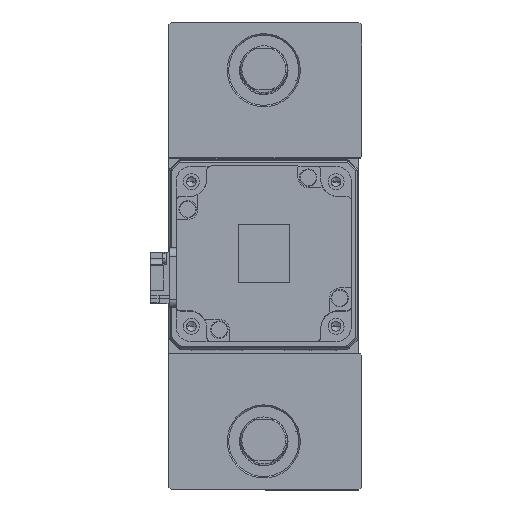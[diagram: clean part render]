
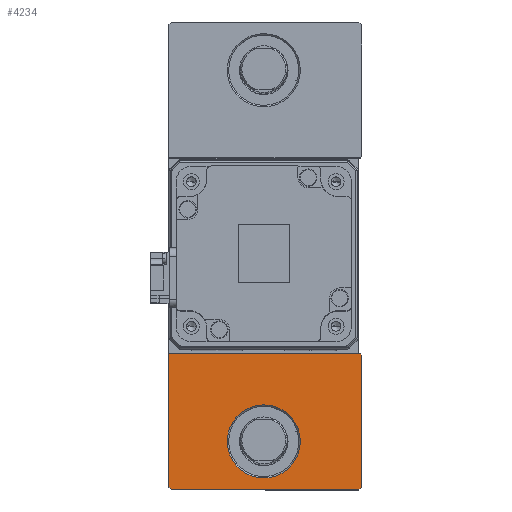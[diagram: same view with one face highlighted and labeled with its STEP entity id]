
A CAD part, top view. The second image highlights one B-rep face of the part: STEP entity #4234.
In plain terms, the highlighted planar face has unit normal (0, 0, 1).
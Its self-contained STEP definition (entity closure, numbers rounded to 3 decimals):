
#342 = DIRECTION ( 'NONE',  ( 0.707, 0.707, 0. ) ) ;
#582 = EDGE_CURVE ( 'NONE', #10966, #22020, #37414, .T. ) ;
#726 = DIRECTION ( 'NONE',  ( 0., 1., 0. ) ) ;
#1306 = EDGE_CURVE ( 'NONE', #27824, #7172, #36489, .T. ) ;
#1331 = ORIENTED_EDGE ( 'NONE', *, *, #30090, .T. ) ;
#1456 = ORIENTED_EDGE ( 'NONE', *, *, #582, .T. ) ;
#1555 = VECTOR ( 'NONE', #34742, 1000. ) ;
#1929 = EDGE_CURVE ( 'NONE', #26506, #5141, #13218, .T. ) ;
#2153 = VECTOR ( 'NONE', #17560, 1000. ) ;
#2158 = ORIENTED_EDGE ( 'NONE', *, *, #6034, .T. ) ;
#2638 = CARTESIAN_POINT ( 'NONE',  ( 0., -63.5, 25. ) ) ;
#2661 = DIRECTION ( 'NONE',  ( 1., 0., 0. ) ) ;
#2867 = DIRECTION ( 'NONE',  ( -0.707, 0.707, 0. ) ) ;
#3135 = CARTESIAN_POINT ( 'NONE',  ( 32.5, -80., 25. ) ) ;
#4234 = ADVANCED_FACE ( 'NONE', ( #6595, #22285 ), #26155, .T. ) ;
#5141 = VERTEX_POINT ( 'NONE', #16233 ) ;
#5594 = DIRECTION ( 'NONE',  ( 1., 0., 0. ) ) ;
#5618 = CARTESIAN_POINT ( 'NONE',  ( -31.5, -80., 25. ) ) ;
#6034 = EDGE_CURVE ( 'NONE', #12534, #15681, #30701, .T. ) ;
#6595 = FACE_BOUND ( 'NONE', #24048, .T. ) ;
#6946 = CARTESIAN_POINT ( 'NONE',  ( 33.5, -34., 25. ) ) ;
#7110 = ORIENTED_EDGE ( 'NONE', *, *, #28406, .T. ) ;
#7172 = VERTEX_POINT ( 'NONE', #5618 ) ;
#7829 = AXIS2_PLACEMENT_3D ( 'NONE', #2638, #23282, #5594 ) ;
#8640 = CARTESIAN_POINT ( 'NONE',  ( -32.5, -33.5, 25. ) ) ;
#9060 = LINE ( 'NONE', #35332, #2153 ) ;
#10966 = VERTEX_POINT ( 'NONE', #33030 ) ;
#11888 = CARTESIAN_POINT ( 'NONE',  ( 0., -63.5, 25. ) ) ;
#12534 = VERTEX_POINT ( 'NONE', #6946 ) ;
#13218 = LINE ( 'NONE', #26417, #35978 ) ;
#13559 = CIRCLE ( 'NONE', #7829, 12.5 ) ;
#14346 = CARTESIAN_POINT ( 'NONE',  ( 0., 0., 25. ) ) ;
#14666 = CARTESIAN_POINT ( 'NONE',  ( -55.75, -55.75, 25. ) ) ;
#15681 = VERTEX_POINT ( 'NONE', #22853 ) ;
#16233 = CARTESIAN_POINT ( 'NONE',  ( 33.5, -79., 25. ) ) ;
#17219 = LINE ( 'NONE', #37710, #1555 ) ;
#17560 = DIRECTION ( 'NONE',  ( 0., -1., 0. ) ) ;
#17795 = EDGE_CURVE ( 'NONE', #19451, #27824, #9060, .T. ) ;
#18008 = LINE ( 'NONE', #27021, #32865 ) ;
#19451 = VERTEX_POINT ( 'NONE', #8640 ) ;
#20333 = DIRECTION ( 'NONE',  ( 0., 0., 1. ) ) ;
#20408 = EDGE_CURVE ( 'NONE', #7172, #26506, #17219, .T. ) ;
#21308 = AXIS2_PLACEMENT_3D ( 'NONE', #11888, #21406, #24854 ) ;
#21406 = DIRECTION ( 'NONE',  ( 0., 0., -1. ) ) ;
#22020 = VERTEX_POINT ( 'NONE', #27048 ) ;
#22159 = AXIS2_PLACEMENT_3D ( 'NONE', #14346, #20333, #2661 ) ;
#22285 = FACE_OUTER_BOUND ( 'NONE', #36737, .T. ) ;
#22853 = CARTESIAN_POINT ( 'NONE',  ( 33., -33.5, 25. ) ) ;
#23282 = DIRECTION ( 'NONE',  ( 0., 0., -1. ) ) ;
#23506 = VECTOR ( 'NONE', #726, 1000. ) ;
#23758 = EDGE_CURVE ( 'NONE', #5141, #12534, #31381, .T. ) ;
#24048 = EDGE_LOOP ( 'NONE', ( #1331, #1456 ) ) ;
#24636 = ORIENTED_EDGE ( 'NONE', *, *, #20408, .T. ) ;
#24854 = DIRECTION ( 'NONE',  ( 1., 0., 0. ) ) ;
#26046 = ORIENTED_EDGE ( 'NONE', *, *, #1306, .T. ) ;
#26155 = PLANE ( 'NONE',  #22159 ) ;
#26417 = CARTESIAN_POINT ( 'NONE',  ( 56.25, -56.25, 25. ) ) ;
#26506 = VERTEX_POINT ( 'NONE', #3135 ) ;
#26736 = VECTOR ( 'NONE', #31104, 1000. ) ;
#27021 = CARTESIAN_POINT ( 'NONE',  ( -32.5, -33.5, 25. ) ) ;
#27048 = CARTESIAN_POINT ( 'NONE',  ( 12.5, -63.5, 25. ) ) ;
#27427 = CARTESIAN_POINT ( 'NONE',  ( 33.5, -33.5, 25. ) ) ;
#27824 = VERTEX_POINT ( 'NONE', #30153 ) ;
#28406 = EDGE_CURVE ( 'NONE', #15681, #19451, #18008, .T. ) ;
#29984 = DIRECTION ( 'NONE',  ( -1., 0., 0. ) ) ;
#30090 = EDGE_CURVE ( 'NONE', #22020, #10966, #13559, .T. ) ;
#30153 = CARTESIAN_POINT ( 'NONE',  ( -32.5, -79., 25. ) ) ;
#30701 = LINE ( 'NONE', #35344, #37668 ) ;
#31104 = DIRECTION ( 'NONE',  ( 0.707, -0.707, 0. ) ) ;
#31381 = LINE ( 'NONE', #27427, #23506 ) ;
#32865 = VECTOR ( 'NONE', #29984, 1000. ) ;
#33030 = CARTESIAN_POINT ( 'NONE',  ( -12.5, -63.5, 25. ) ) ;
#34742 = DIRECTION ( 'NONE',  ( 1., 0., 0. ) ) ;
#35332 = CARTESIAN_POINT ( 'NONE',  ( -32.5, -33.5, 25. ) ) ;
#35344 = CARTESIAN_POINT ( 'NONE',  ( -0.25, -0.25, 25. ) ) ;
#35935 = ORIENTED_EDGE ( 'NONE', *, *, #1929, .T. ) ;
#35978 = VECTOR ( 'NONE', #342, 1000. ) ;
#36433 = ORIENTED_EDGE ( 'NONE', *, *, #23758, .T. ) ;
#36489 = LINE ( 'NONE', #14666, #26736 ) ;
#36595 = ORIENTED_EDGE ( 'NONE', *, *, #17795, .T. ) ;
#36737 = EDGE_LOOP ( 'NONE', ( #24636, #35935, #36433, #2158, #7110, #36595, #26046 ) ) ;
#37414 = CIRCLE ( 'NONE', #21308, 12.5 ) ;
#37668 = VECTOR ( 'NONE', #2867, 1000. ) ;
#37710 = CARTESIAN_POINT ( 'NONE',  ( -32.5, -80., 25. ) ) ;
